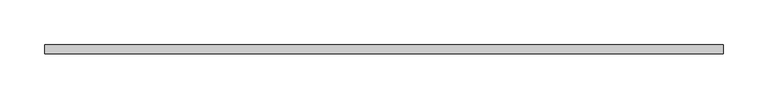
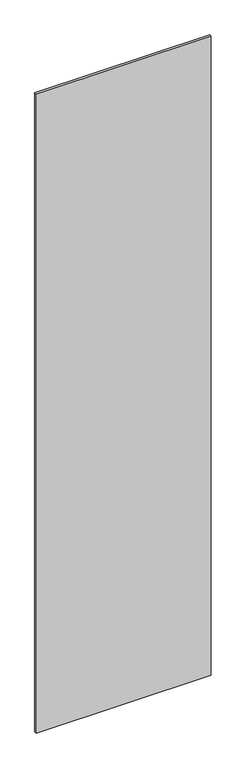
"""IFC4 building model written with IfcOpenShell, lengths in millimetres: plate geometry, システム パネル : 標準."""

from ifc_helpers import new_model, si_unit, origin, origin_with_axes, place, context, project, spatial, polyline, outline, extrude, source, transform, mapped, element, save


def plate_3004b3b1(model_context):
    return source(origin(), model_context, "Body", "SweptSolid", [
        extrude(outline(polyline([(380.0, -5.0), (-380.0, -5.0), (-380.0, 5.0), (380.0, 5.0), (380.0, -5.0)])), origin_with_axes(), (0.0, 0.0, 1.0), 2930.0),
    ])


if __name__ == "__main__":
    model = new_model("IFC4")
    model_context = context("Model", 3, world=origin())
    ifc_project = project(units=[si_unit("LENGTHUNIT", "METRE", prefix="MILLI")], contexts=[model_context])
    site = spatial("IfcSite", under=ifc_project)
    building = spatial("IfcBuilding", under=site)
    placement = place(None, origin())
    plate_shape = plate_3004b3b1(model_context)
    element("IfcPlate", 1, ObjectType="システム パネル : 標準", at=placement, inside=building, context=model_context, shape_type="MappedRepresentation", body=[
        mapped(plate_shape, transform((0.0, 0.0, 0.0), x_axis=(1.0, 0.0, 0.0), y_axis=(0.0, 1.0, 0.0), z_axis=(0.0, 0.0, 1.0))),
    ])
    save(model, "model.ifc")
